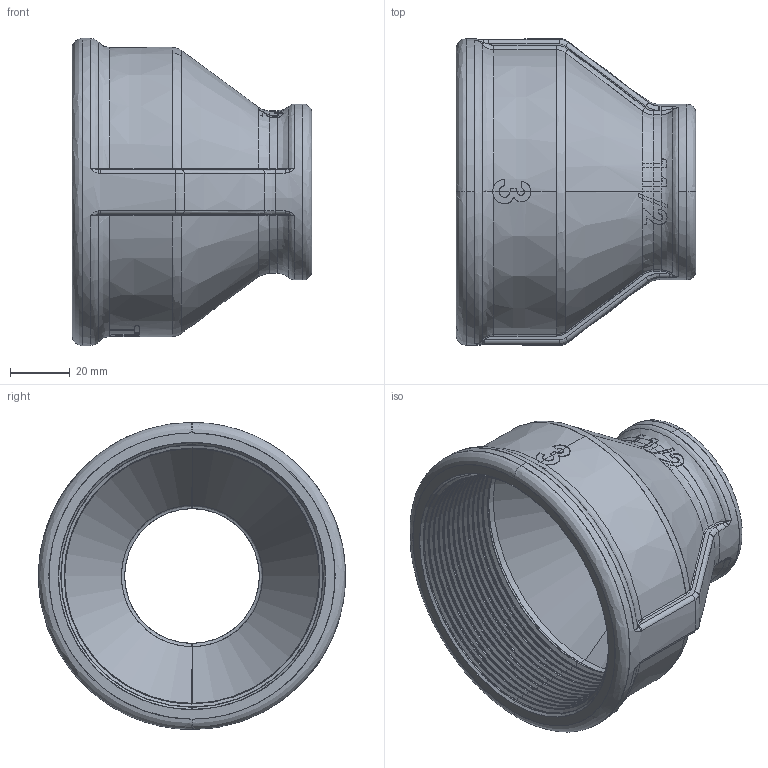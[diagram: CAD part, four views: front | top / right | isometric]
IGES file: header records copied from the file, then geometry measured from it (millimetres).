
Start section: SolidWorks IGES file using analytic representation for surfaces
Global section: file name: C:\Users\Joel Rosa\Desktop\Tubulação\12-32-OK\12-32-054.IGS; native system: SolidWorks 2011; preprocessor: SolidWorks 2011; author: Joel Rosa; date: 121209.022302; units: millimetre
Bounding box: 80 x 102.4 x 102.4 mm (x, y, z)
Surface area: 51965.1 mm2 (no closed solid volume)
Topology: 0 solids, 0 shells, 503 faces, 4446 edges, 4440 vertices
Faces by surface type: bspline 347, revolution 156
